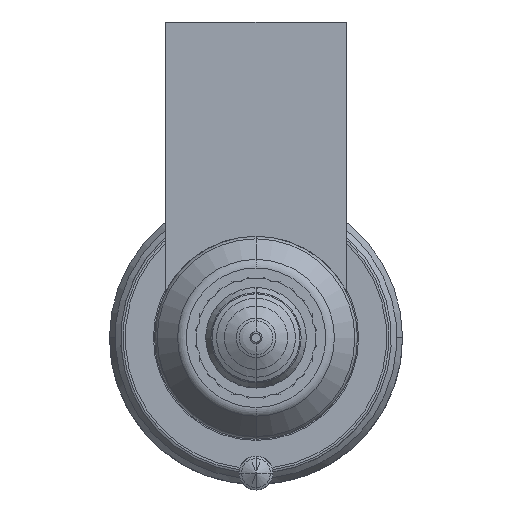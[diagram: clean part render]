
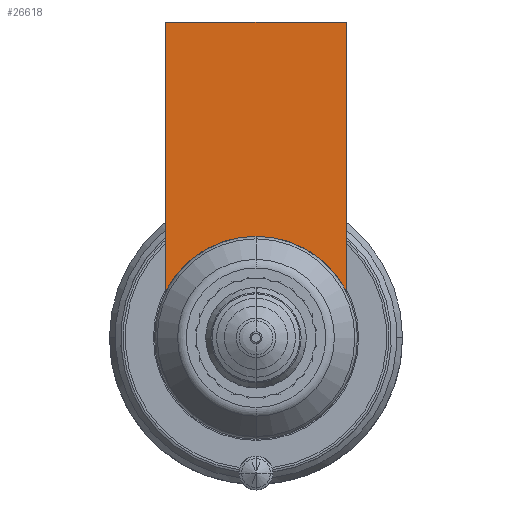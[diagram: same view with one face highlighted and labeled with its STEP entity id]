
A CAD part, front view. The second image highlights one B-rep face of the part: STEP entity #26618.
In plain terms, the highlighted planar face has unit normal (0, -1, 0).
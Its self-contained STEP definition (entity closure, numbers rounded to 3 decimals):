
#25739=DIRECTION('',(1.,0.,0.));
#25740=VECTOR('',#25739,16.);
#25741=CARTESIAN_POINT('',(-8.,-54.,28.));
#25742=LINE('',#25741,#25740);
#25747=CARTESIAN_POINT('',(0.,-54.,0.));
#25748=DIRECTION('',(0.,-1.,0.));
#25749=DIRECTION('',(0.889,0.,0.458));
#25750=AXIS2_PLACEMENT_3D('',#25747,#25748,#25749);
#25755=CARTESIAN_POINT('',(0.,-54.,0.));
#25756=DIRECTION('',(0.,-1.,0.));
#25757=DIRECTION('',(0.,0.,1.));
#25758=AXIS2_PLACEMENT_3D('',#25755,#25756,#25757);
#25784=DIRECTION('',(0.,0.,-1.));
#25785=VECTOR('',#25784,23.877);
#25786=CARTESIAN_POINT('',(-8.,-54.,28.));
#25787=LINE('',#25786,#25785);
#26462=DIRECTION('',(0.,0.,-1.));
#26463=VECTOR('',#26462,23.877);
#26464=CARTESIAN_POINT('',(8.,-54.,28.));
#26465=LINE('',#26464,#26463);
#26515=CARTESIAN_POINT('',(-8.,-54.,28.));
#26516=VERTEX_POINT('',#26515);
#26521=CARTESIAN_POINT('',(8.,-54.,28.));
#26522=VERTEX_POINT('',#26521);
#26525=CARTESIAN_POINT('',(-8.,-54.,4.123));
#26526=VERTEX_POINT('',#26525);
#26529=CARTESIAN_POINT('',(8.,-54.,4.123));
#26530=VERTEX_POINT('',#26529);
#26599=CARTESIAN_POINT('',(0.,-54.,9.));
#26600=VERTEX_POINT('',#26599);
#26601=CARTESIAN_POINT('',(0.,-54.,9.));
#26602=DIRECTION('',(0.,1.,0.));
#26603=DIRECTION('',(0.,0.,-1.));
#26604=AXIS2_PLACEMENT_3D('',#26601,#26602,#26603);
#26605=PLANE('',#26604);
#26607=ORIENTED_EDGE('',*,*,#26606,.F.);
#26609=ORIENTED_EDGE('',*,*,#26608,.T.);
#26611=ORIENTED_EDGE('',*,*,#26610,.T.);
#26613=ORIENTED_EDGE('',*,*,#26612,.T.);
#26615=ORIENTED_EDGE('',*,*,#26614,.T.);
#26616=EDGE_LOOP('',(#26607,#26609,#26611,#26613,#26615));
#26617=FACE_OUTER_BOUND('',#26616,.F.);
#26618=ADVANCED_FACE('',(#26617),#26605,.F.);
#25751=CIRCLE('',#25750,9.);
#25759=CIRCLE('',#25758,9.);
#26606=EDGE_CURVE('',#26516,#26526,#25787,.T.);
#26608=EDGE_CURVE('',#26516,#26522,#25742,.T.);
#26610=EDGE_CURVE('',#26522,#26530,#26465,.T.);
#26612=EDGE_CURVE('',#26530,#26600,#25751,.T.);
#26614=EDGE_CURVE('',#26600,#26526,#25759,.T.);
